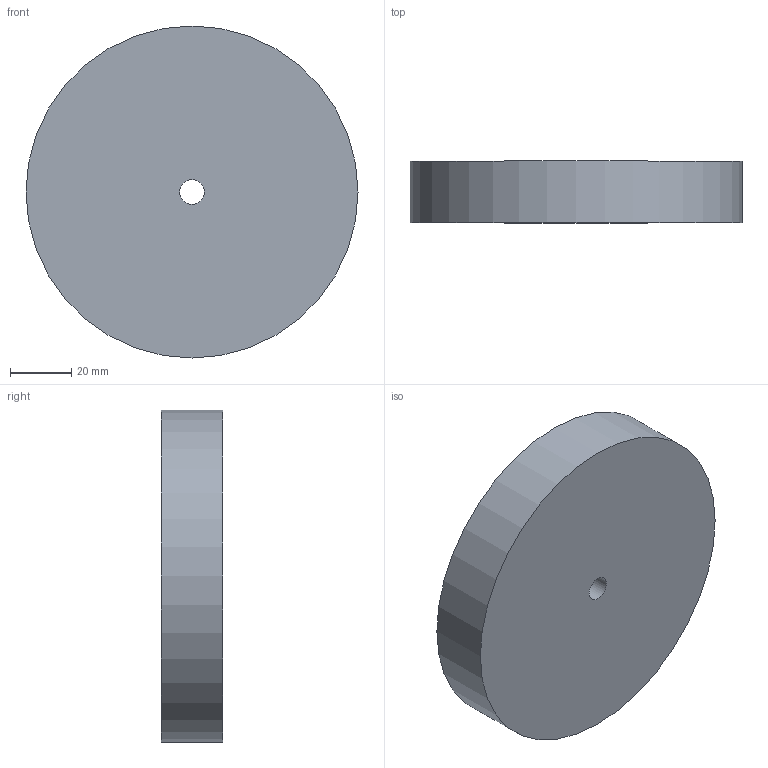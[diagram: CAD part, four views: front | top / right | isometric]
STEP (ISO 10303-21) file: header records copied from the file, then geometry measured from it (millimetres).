
FILE_DESCRIPTION(/* description */ ('Alibre Inc.'),/* implementation_level */ '2;1');
FILE_NAME(/* name */ 'export0',/* time_stamp */ '2007-09-06T21:49:08+02:00',/* author */ (''),/* organization */ (''),/* preprocessor_version */ 'ST-DEVELOPER v10',/* originating_system */ 'Alibre',/* authorisation */ '');
FILE_SCHEMA (('CONFIG_CONTROL_DESIGN'));
Length unit declared in the file: centimetre
Products named in the file (1): ID_1
Bounding box: 108 x 20 x 108 mm (x, y, z)
Volume: 182212.4 mm3; surface area: 25509.7 mm2
Topology: 1 solids, 1 shells, 4 faces, 6 edges, 4 vertices
Faces by surface type: plane 2, cylinder 2
Full cylindrical faces by diameter (mm): 8 x1, 108 x1
Entity records: 171 total; most frequent: DIRECTION 14, CARTESIAN_POINT 12, ORGANIZATION 8, PERSON 8, PERSON_AND_ORGANIZATION 8, ORIENTED_EDGE 8, EDGE_LOOP 8, FACE_BOUND 8
